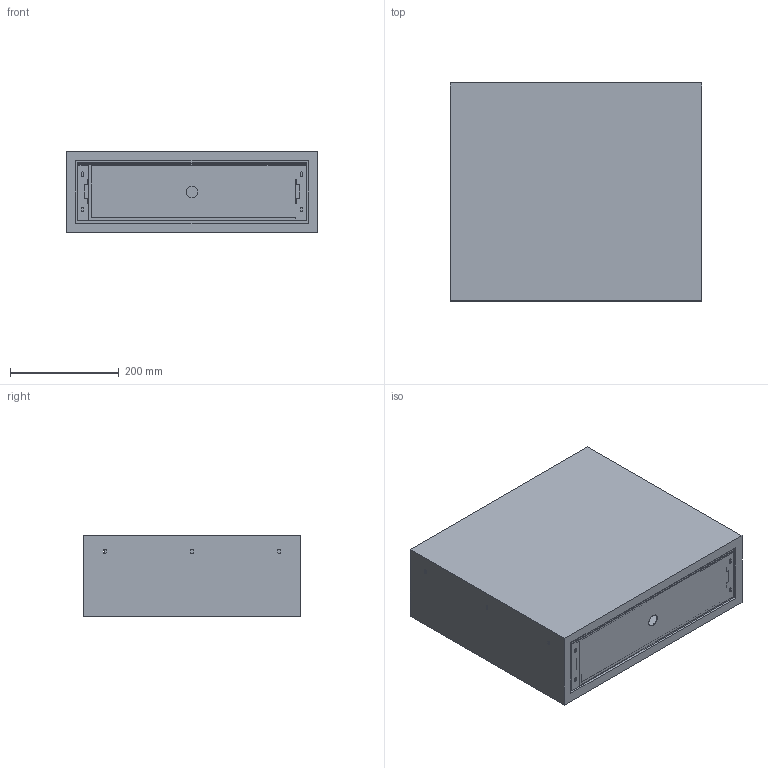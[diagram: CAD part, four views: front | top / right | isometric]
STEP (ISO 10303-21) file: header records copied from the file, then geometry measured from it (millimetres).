
FILE_DESCRIPTION(/* description */ ('STEP AP242 Edition 2','CAx-IF Rec.Pracs.---Representation and Presentation of Product Manufacturing Information (PMI)---4.0---2014-10-13','CAx-IF Rec.Pracs.---3D Tessellated Geometry---0.4---2014-09-14','2;1','CAx-IF Rec.Pracs.---User Defined Attributes---1.5---2016-08-15'),/* implementation_level */ '2;1');
FILE_NAME(/* name */ '6a16cdabe054ca3c19cb6305',/* time_stamp */ '2026-05-27T10:55:40Z',/* author */ (''),/* organization */ (''),/* preprocessor_version */ 'ST-DEVELOPER v20',/* originating_system */ 'ONSHAPE BY PTC INC, 1.215',/* authorisation */ ' ');
FILE_SCHEMA (('AP242_MANAGED_MODEL_BASED_3D_ENGINEERING_MIM_LF { 1 0 10303 442 3 1 4 }'));
Length unit declared in the file: millimetre
Products named in the file (17): 500; Part 4; Part 1; Part 5; Part 7; Part 6; Part 3; Part 2; 112 350 assembly-Mirrored <1>; 112 350 assembly <1>; Part 8
Assembly tree (18 placements, depth 3):
  500
    Part 4
    Part 1
    Part 5
    Part 7
    Part 6
    Part 3
    Part 2
    112 350 assembly-Mirrored <1>
      Part 1
      Part 1
      Part 2
      Part 3
    112 350 assembly <1>
      Part 1
      Part 1
      Part 3
      Part 2
    Part 8
Bounding box: 462 x 400 x 150 mm (x, y, z)
Volume: 5646954.9 mm3; surface area: 3240662.3 mm2
Topology: 16 solids, 16 shells, 761 faces, 2077 edges, 1355 vertices
Faces by surface type: plane 404, cylinder 299, torus 40, bspline 14, sphere 4
Full cylindrical faces by diameter (mm): 4 x8, 4.4 x4, 4.45 x4, 4.5 x6, 4.9 x2, 5.1 x2, 5.15 x2, 6 x4, 6.4 x4, 22 x1
Entity records: 23265 total; most frequent: CARTESIAN_POINT 4621, DIRECTION 3792, ORIENTED_EDGE 3732, EDGE_CURVE 1866, LINE 1274, VECTOR 1274, AXIS2_PLACEMENT_3D 1259, VERTEX_POINT 1248
